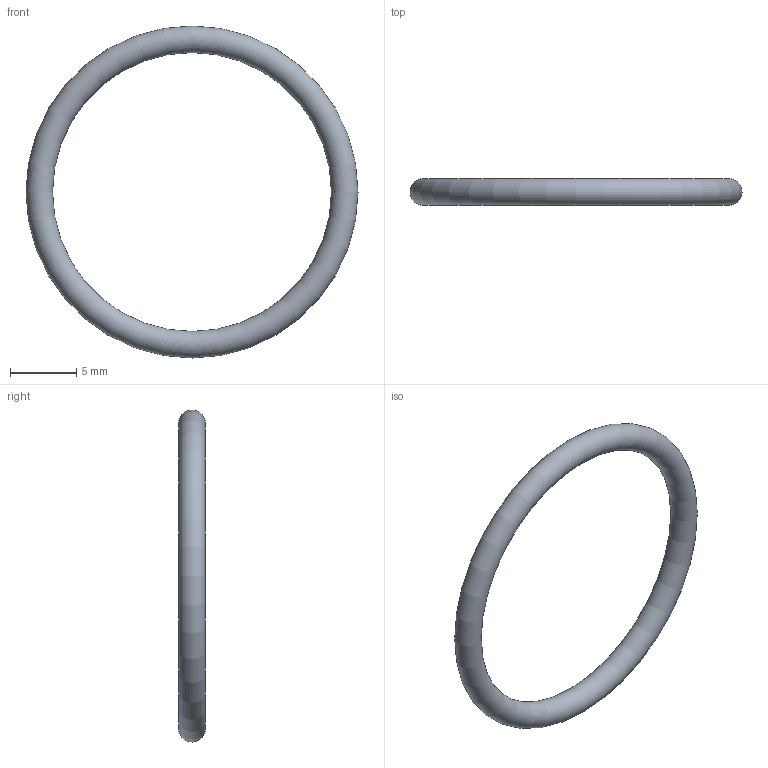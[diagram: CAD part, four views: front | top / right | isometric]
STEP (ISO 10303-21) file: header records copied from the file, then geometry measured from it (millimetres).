
FILE_DESCRIPTION( ( 'STEP AP203' ), '1' );
FILE_NAME( 'C:/Temp/Ganter_Step_05_03_2020/data/3_5/or638/O-Ring OR638-21.00-2.00-70.stp', '2020-03-12T13:44:22', ( 'License CC BY-ND 4.0' ), ( 'CADENAS' ), ' ', 'PARTsolutions', ' ' );
FILE_SCHEMA( ( 'CONFIG_CONTROL_DESIGN' ) );
Length unit declared in the file: millimetre
Products named in the file (1): _O-Ring OR638-21.00-2.00-70
Bounding box: 25 x 2 x 25 mm (x, y, z)
Volume: 227 mm3; surface area: 454 mm2
Topology: 1 solids, 1 shells, 1 faces, 2 edges, 1 vertices
Faces by surface type: torus 1
Entity records: 62 total; most frequent: CC_DESIGN_PERSON_AND_ORGANIZATION_ASSIGNMENT 5, PERSON_AND_ORGANIZATION_ROLE 4, DIRECTION 4, CARTESIAN_POINT 3, DATE_TIME_ROLE 2, CC_DESIGN_DATE_AND_TIME_ASSIGNMENT 2, AXIS2_PLACEMENT_3D 2, DIMENSIONAL_EXPONENTS 2
